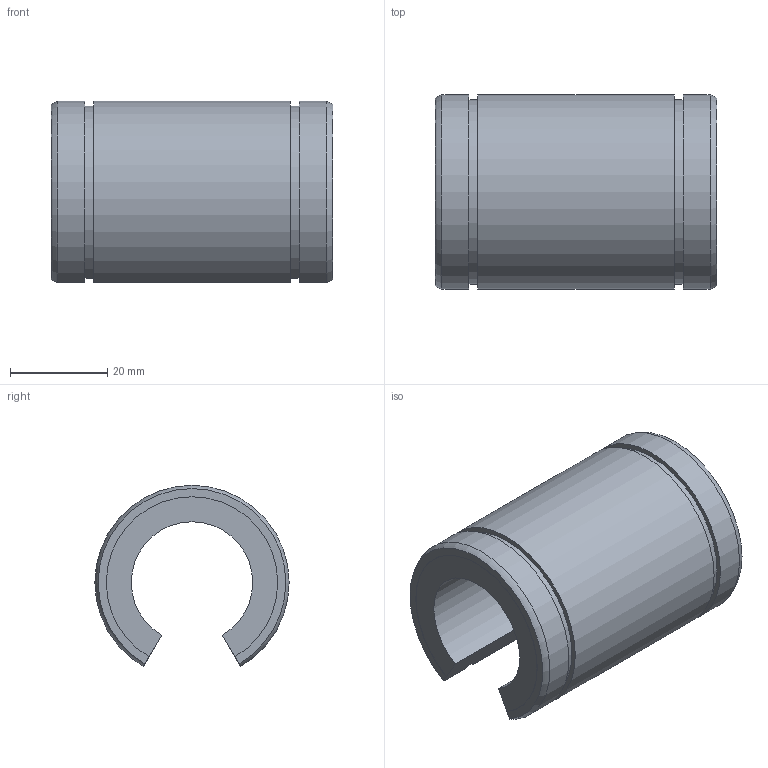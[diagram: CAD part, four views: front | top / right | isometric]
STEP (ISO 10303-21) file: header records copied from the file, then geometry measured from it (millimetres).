
FILE_DESCRIPTION((''),'2;1');
FILE_NAME('D:\製品 (図面)\カタログ用3D\リニアベアリング関連\STEP形式\LE-OP\LE25-OP.stp','2010-06-03T09:09:52',('Tsuchiya'),(''),'Autodesk Inventor 10','Autodesk Inventor 10','');
FILE_SCHEMA(('AUTOMOTIVE_DESIGN { 1 0 10303 214 1 1 1 1 }'));
Length unit declared in the file: millimetre
Products named in the file (1): LE25-OP
Bounding box: 58 x 40 x 37.32 mm (x, y, z)
Volume: 36470.6 mm3; surface area: 12290.1 mm2
Topology: 1 solids, 1 shells, 20 faces, 54 edges, 36 vertices
Faces by surface type: plane 10, cylinder 8, torus 2
Entity records: 663 total; most frequent: DIRECTION 118, CARTESIAN_POINT 111, ORIENTED_EDGE 108, EDGE_CURVE 54, AXIS2_PLACEMENT_3D 43, VERTEX_POINT 36, VECTOR 32, LINE 32
